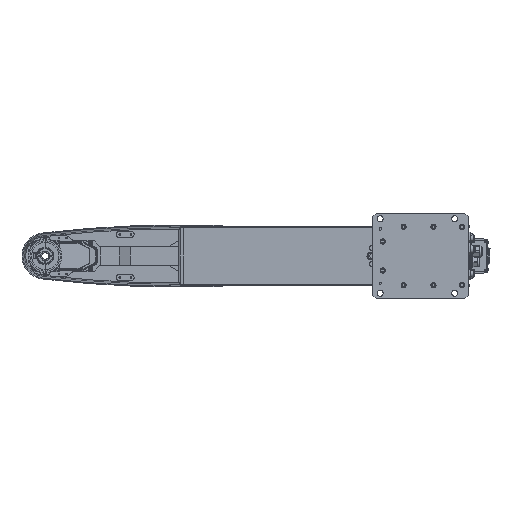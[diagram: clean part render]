
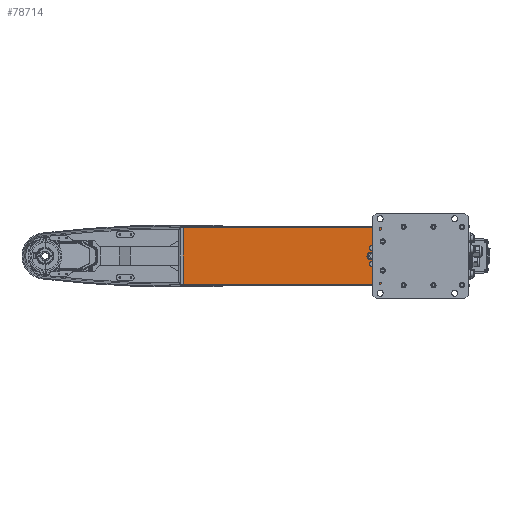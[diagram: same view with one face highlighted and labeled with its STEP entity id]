
A CAD part, front view. The second image highlights one B-rep face of the part: STEP entity #78714.
In plain terms, the highlighted planar face has unit normal (0, -1, 0).
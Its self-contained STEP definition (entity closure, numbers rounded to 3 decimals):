
#2599 = DIRECTION ( 'NONE',  ( 0., 0., -1. ) ) ;
#3823 = CARTESIAN_POINT ( 'NONE',  ( 0., 0., 0. ) ) ;
#4804 = EDGE_LOOP ( 'NONE', ( #137305, #91289 ) ) ;
#4899 = CARTESIAN_POINT ( 'NONE',  ( -125., 0., 0. ) ) ;
#5318 = AXIS2_PLACEMENT_3D ( 'NONE', #121926, #136849, #76286 ) ;
#5509 = DIRECTION ( 'NONE',  ( 0., 1., 0. ) ) ;
#6302 = DIRECTION ( 'NONE',  ( 0., 0., -1. ) ) ;
#6307 = DIRECTION ( 'NONE',  ( 0., 0., 1. ) ) ;
#8474 = CIRCLE ( 'NONE', #126345, 6. ) ;
#19012 = AXIS2_PLACEMENT_3D ( 'NONE', #3823, #53163, #41397 ) ;
#23422 = VERTEX_POINT ( 'NONE', #118553 ) ;
#24383 = DIRECTION ( 'NONE',  ( 0., 1., 0. ) ) ;
#24631 = CARTESIAN_POINT ( 'NONE',  ( -123.1, 0., 21.706 ) ) ;
#27471 = EDGE_LOOP ( 'NONE', ( #80345, #122684, #117520, #50321 ) ) ;
#28163 = VECTOR ( 'NONE', #84835, 1000. ) ;
#29053 = CARTESIAN_POINT ( 'NONE',  ( -629.5, 0., -76. ) ) ;
#30010 = FACE_BOUND ( 'NONE', #4804, .T. ) ;
#32817 = VERTEX_POINT ( 'NONE', #56892 ) ;
#35515 = EDGE_CURVE ( 'NONE', #44523, #57252, #93057, .T. ) ;
#38135 = CARTESIAN_POINT ( 'NONE',  ( 0., 0., -73. ) ) ;
#40944 = DIRECTION ( 'NONE',  ( 0., 1., 0. ) ) ;
#41273 = CARTESIAN_POINT ( 'NONE',  ( -629.5, 0., 76. ) ) ;
#41397 = DIRECTION ( 'NONE',  ( 0., 0., 1. ) ) ;
#43574 = DIRECTION ( 'NONE',  ( -1., 0., 0. ) ) ;
#44523 = VERTEX_POINT ( 'NONE', #38135 ) ;
#46240 = CARTESIAN_POINT ( 'NONE',  ( -629.5, 0., -76. ) ) ;
#47307 = EDGE_CURVE ( 'NONE', #132562, #32817, #65175, .T. ) ;
#47959 = ORIENTED_EDGE ( 'NONE', *, *, #65252, .T. ) ;
#49300 = AXIS2_PLACEMENT_3D ( 'NONE', #4899, #40944, #124315 ) ;
#49691 = EDGE_CURVE ( 'NONE', #83053, #32817, #61245, .T. ) ;
#49971 = VECTOR ( 'NONE', #43574, 1000. ) ;
#50321 = ORIENTED_EDGE ( 'NONE', *, *, #141903, .F. ) ;
#50861 = EDGE_CURVE ( 'NONE', #23422, #112426, #8474, .T. ) ;
#51429 = CIRCLE ( 'NONE', #19012, 73. ) ;
#52217 = EDGE_CURVE ( 'NONE', #57252, #44523, #51429, .T. ) ;
#53163 = DIRECTION ( 'NONE',  ( 0., 1., 0. ) ) ;
#53335 = EDGE_CURVE ( 'NONE', #144709, #96672, #109573, .T. ) ;
#55055 = DIRECTION ( 'NONE',  ( 0., 1., 0. ) ) ;
#55823 = FACE_BOUND ( 'NONE', #66202, .T. ) ;
#56206 = EDGE_CURVE ( 'NONE', #101088, #132562, #148476, .T. ) ;
#56601 = FACE_BOUND ( 'NONE', #83963, .T. ) ;
#56892 = CARTESIAN_POINT ( 'NONE',  ( 79.5, 0., 76. ) ) ;
#57252 = VERTEX_POINT ( 'NONE', #65936 ) ;
#57316 = VECTOR ( 'NONE', #6307, 1000. ) ;
#59708 = AXIS2_PLACEMENT_3D ( 'NONE', #24631, #83483, #96051 ) ;
#60468 = CIRCLE ( 'NONE', #83024, 10.5 ) ;
#61245 = LINE ( 'NONE', #131292, #28163 ) ;
#65175 = LINE ( 'NONE', #91869, #89662 ) ;
#65252 = EDGE_CURVE ( 'NONE', #96672, #144709, #60468, .T. ) ;
#65936 = CARTESIAN_POINT ( 'NONE',  ( 0., 0., 73. ) ) ;
#66202 = EDGE_LOOP ( 'NONE', ( #67929, #121459 ) ) ;
#67929 = ORIENTED_EDGE ( 'NONE', *, *, #85873, .T. ) ;
#72015 = CARTESIAN_POINT ( 'NONE',  ( -123.1, 0., -21.706 ) ) ;
#72266 = DIRECTION ( 'NONE',  ( 0., 0., 1. ) ) ;
#72336 = AXIS2_PLACEMENT_3D ( 'NONE', #72481, #110190, #2599 ) ;
#72481 = CARTESIAN_POINT ( 'NONE',  ( -123.1, 0., 21.706 ) ) ;
#75371 = AXIS2_PLACEMENT_3D ( 'NONE', #72015, #131024, #119989 ) ;
#76286 = DIRECTION ( 'NONE',  ( 0., 0., -1. ) ) ;
#77718 = CARTESIAN_POINT ( 'NONE',  ( -125., 0., -10.5 ) ) ;
#78676 = FACE_OUTER_BOUND ( 'NONE', #27471, .T. ) ;
#78714 = ADVANCED_FACE ( 'NONE', ( #78676, #55823, #103748, #30010, #56601 ), #90450, .F. ) ;
#80345 = ORIENTED_EDGE ( 'NONE', *, *, #49691, .T. ) ;
#82610 = CARTESIAN_POINT ( 'NONE',  ( 79.5, 0., -76. ) ) ;
#83024 = AXIS2_PLACEMENT_3D ( 'NONE', #92736, #24383, #72266 ) ;
#83053 = VERTEX_POINT ( 'NONE', #82610 ) ;
#83483 = DIRECTION ( 'NONE',  ( 0., 1., 0. ) ) ;
#83963 = EDGE_LOOP ( 'NONE', ( #95949, #130696 ) ) ;
#84835 = DIRECTION ( 'NONE',  ( 0., 0., 1. ) ) ;
#84892 = CIRCLE ( 'NONE', #72336, 6. ) ;
#85873 = EDGE_CURVE ( 'NONE', #112426, #23422, #140695, .T. ) ;
#89662 = VECTOR ( 'NONE', #151584, 1000. ) ;
#90450 = PLANE ( 'NONE',  #111194 ) ;
#91289 = ORIENTED_EDGE ( 'NONE', *, *, #35515, .T. ) ;
#91518 = LINE ( 'NONE', #126960, #49971 ) ;
#91869 = CARTESIAN_POINT ( 'NONE',  ( -629.5, 0., 76. ) ) ;
#92736 = CARTESIAN_POINT ( 'NONE',  ( -125., 0., 0. ) ) ;
#93057 = CIRCLE ( 'NONE', #5318, 73. ) ;
#95949 = ORIENTED_EDGE ( 'NONE', *, *, #153458, .T. ) ;
#96051 = DIRECTION ( 'NONE',  ( 0., 0., 1. ) ) ;
#96672 = VERTEX_POINT ( 'NONE', #154004 ) ;
#101088 = VERTEX_POINT ( 'NONE', #46240 ) ;
#101367 = ORIENTED_EDGE ( 'NONE', *, *, #53335, .T. ) ;
#102992 = DIRECTION ( 'NONE',  ( 1., 0., 0. ) ) ;
#103748 = FACE_BOUND ( 'NONE', #107156, .T. ) ;
#107156 = EDGE_LOOP ( 'NONE', ( #101367, #47959 ) ) ;
#108087 = EDGE_CURVE ( 'NONE', #145055, #129150, #84892, .T. ) ;
#109573 = CIRCLE ( 'NONE', #49300, 10.5 ) ;
#110190 = DIRECTION ( 'NONE',  ( 0., 1., 0. ) ) ;
#111194 = AXIS2_PLACEMENT_3D ( 'NONE', #150206, #55055, #102992 ) ;
#112426 = VERTEX_POINT ( 'NONE', #134801 ) ;
#117520 = ORIENTED_EDGE ( 'NONE', *, *, #56206, .F. ) ;
#118553 = CARTESIAN_POINT ( 'NONE',  ( -123.1, 0., -27.706 ) ) ;
#119989 = DIRECTION ( 'NONE',  ( 0., 0., 1. ) ) ;
#120735 = CARTESIAN_POINT ( 'NONE',  ( -123.1, 0., 27.706 ) ) ;
#121459 = ORIENTED_EDGE ( 'NONE', *, *, #50861, .T. ) ;
#121926 = CARTESIAN_POINT ( 'NONE',  ( 0., 0., 0. ) ) ;
#122684 = ORIENTED_EDGE ( 'NONE', *, *, #47307, .F. ) ;
#124315 = DIRECTION ( 'NONE',  ( 0., 0., -1. ) ) ;
#126345 = AXIS2_PLACEMENT_3D ( 'NONE', #149259, #5509, #6302 ) ;
#126960 = CARTESIAN_POINT ( 'NONE',  ( 79.5, 0., -76. ) ) ;
#127570 = CIRCLE ( 'NONE', #59708, 6. ) ;
#129150 = VERTEX_POINT ( 'NONE', #120735 ) ;
#130696 = ORIENTED_EDGE ( 'NONE', *, *, #108087, .T. ) ;
#131024 = DIRECTION ( 'NONE',  ( 0., 1., 0. ) ) ;
#131292 = CARTESIAN_POINT ( 'NONE',  ( 79.5, 0., -76. ) ) ;
#132562 = VERTEX_POINT ( 'NONE', #41273 ) ;
#134801 = CARTESIAN_POINT ( 'NONE',  ( -123.1, 0., -15.706 ) ) ;
#136849 = DIRECTION ( 'NONE',  ( 0., 1., 0. ) ) ;
#137305 = ORIENTED_EDGE ( 'NONE', *, *, #52217, .T. ) ;
#140695 = CIRCLE ( 'NONE', #75371, 6. ) ;
#141903 = EDGE_CURVE ( 'NONE', #83053, #101088, #91518, .T. ) ;
#144709 = VERTEX_POINT ( 'NONE', #77718 ) ;
#145055 = VERTEX_POINT ( 'NONE', #148272 ) ;
#148272 = CARTESIAN_POINT ( 'NONE',  ( -123.1, 0., 15.706 ) ) ;
#148476 = LINE ( 'NONE', #29053, #57316 ) ;
#149259 = CARTESIAN_POINT ( 'NONE',  ( -123.1, 0., -21.706 ) ) ;
#150206 = CARTESIAN_POINT ( 'NONE',  ( -621.5, 0., -63.696 ) ) ;
#151584 = DIRECTION ( 'NONE',  ( 1., 0., 0. ) ) ;
#153458 = EDGE_CURVE ( 'NONE', #129150, #145055, #127570, .T. ) ;
#154004 = CARTESIAN_POINT ( 'NONE',  ( -125., 0., 10.5 ) ) ;
